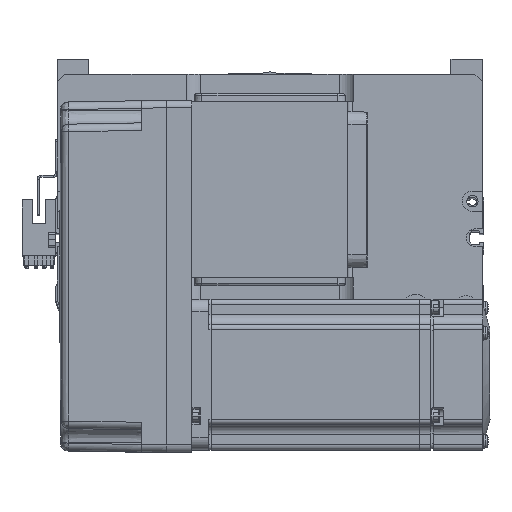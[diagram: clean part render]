
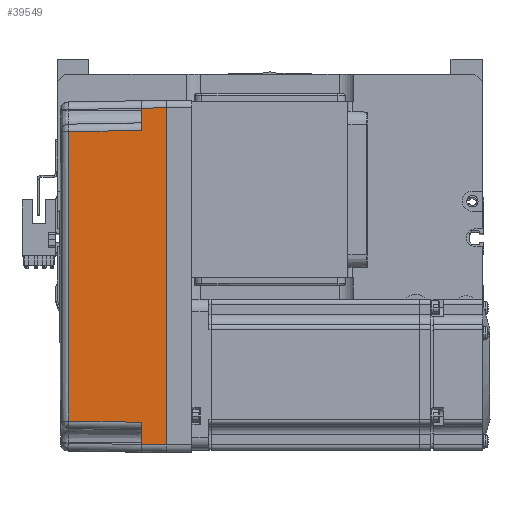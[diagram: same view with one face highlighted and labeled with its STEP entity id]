
A CAD part, top view. The second image highlights one B-rep face of the part: STEP entity #39549.
In plain terms, the highlighted planar face has unit normal (-0.018, 0, 1) as drawn and (0, -1, 0.017) by its records, which use the part's own axes.
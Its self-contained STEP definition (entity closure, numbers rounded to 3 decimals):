
#1878 = B_SPLINE_CURVE_WITH_KNOTS ( 'NONE', 3,
 ( #19127, #33254, #19323, #51954 ),
 .UNSPECIFIED., .F., .F.,
 ( 4, 4 ),
 ( 0., 1. ),
 .UNSPECIFIED. ) ;
#2614 = DIRECTION ( 'NONE',  ( 0., -1., 0.017 ) ) ;
#2633 = ORIENTED_EDGE ( 'NONE', *, *, #57067, .T. ) ;
#3504 = EDGE_CURVE ( 'NONE', #26975, #42988, #1878, .T. ) ;
#4125 = EDGE_CURVE ( 'NONE', #31182, #32437, #5327, .T. ) ;
#4708 = CARTESIAN_POINT ( 'NONE',  ( 67., -36., 0. ) ) ;
#4940 = DIRECTION ( 'NONE',  ( -1., 0., 0. ) ) ;
#5059 = CARTESIAN_POINT ( 'NONE',  ( -57.495, -35.32, 38.985 ) ) ;
#5154 = VECTOR ( 'NONE', #24069, 1000. ) ;
#5327 = LINE ( 'NONE', #34614, #53708 ) ;
#5717 = VERTEX_POINT ( 'NONE', #32763 ) ;
#6558 = DIRECTION ( 'NONE',  ( -1., 0., 0. ) ) ;
#8178 = LINE ( 'NONE', #10608, #57283 ) ;
#9000 = EDGE_CURVE ( 'NONE', #53664, #32437, #24582, .T. ) ;
#10225 = CARTESIAN_POINT ( 'NONE',  ( 0., -36., 0. ) ) ;
#10608 = CARTESIAN_POINT ( 'NONE',  ( 67., -36., 0. ) ) ;
#11576 = CARTESIAN_POINT ( 'NONE',  ( 70., -35.825, 10. ) ) ;
#12380 = DIRECTION ( 'NONE',  ( -1., 0., 0. ) ) ;
#13170 = EDGE_LOOP ( 'NONE', ( #53046, #2633, #42781, #21612, #13357, #23044, #35906, #52726 ) ) ;
#13357 = ORIENTED_EDGE ( 'NONE', *, *, #21970, .T. ) ;
#13974 = VECTOR ( 'NONE', #12380, 1000. ) ;
#15080 = CARTESIAN_POINT ( 'NONE',  ( 58., -35.825, 10. ) ) ;
#16965 = DIRECTION ( 'NONE',  ( 0., -0.017, -1. ) ) ;
#19127 = CARTESIAN_POINT ( 'NONE',  ( 57.495, -35.32, 38.985 ) ) ;
#19323 = CARTESIAN_POINT ( 'NONE',  ( -19.165, -35.316, 39.181 ) ) ;
#20532 = VERTEX_POINT ( 'NONE', #15080 ) ;
#21612 = ORIENTED_EDGE ( 'NONE', *, *, #3504, .T. ) ;
#21860 = CARTESIAN_POINT ( 'NONE',  ( 58., -35.825, 10. ) ) ;
#21970 = EDGE_CURVE ( 'NONE', #42988, #31182, #60091, .T. ) ;
#23044 = ORIENTED_EDGE ( 'NONE', *, *, #4125, .T. ) ;
#23897 = CARTESIAN_POINT ( 'NONE',  ( -66.959, -35.958, 2.39 ) ) ;
#24069 = DIRECTION ( 'NONE',  ( -0.017, -0.017, -1. ) ) ;
#24582 = LINE ( 'NONE', #23897, #58996 ) ;
#25772 = EDGE_CURVE ( 'NONE', #60689, #5717, #8178, .T. ) ;
#26163 = CARTESIAN_POINT ( 'NONE',  ( 70., -36., 0. ) ) ;
#26975 = VERTEX_POINT ( 'NONE', #37983 ) ;
#31182 = VERTEX_POINT ( 'NONE', #54448 ) ;
#31678 = DIRECTION ( 'NONE',  ( -0.017, 0.017, 1. ) ) ;
#32437 = VERTEX_POINT ( 'NONE', #48048 ) ;
#32763 = CARTESIAN_POINT ( 'NONE',  ( 66.826, -35.825, 10. ) ) ;
#33254 = CARTESIAN_POINT ( 'NONE',  ( 19.165, -35.316, 39.181 ) ) ;
#34008 = FACE_OUTER_BOUND ( 'NONE', #13170, .T. ) ;
#34614 = CARTESIAN_POINT ( 'NONE',  ( 70., -35.825, 10. ) ) ;
#35906 = ORIENTED_EDGE ( 'NONE', *, *, #9000, .F. ) ;
#36504 = EDGE_CURVE ( 'NONE', #60689, #53664, #60646, .T. ) ;
#37883 = VECTOR ( 'NONE', #4940, 1000. ) ;
#37983 = CARTESIAN_POINT ( 'NONE',  ( 57.495, -35.32, 38.985 ) ) ;
#38422 = DIRECTION ( 'NONE',  ( 0.017, 0.017, 1. ) ) ;
#38434 = CARTESIAN_POINT ( 'NONE',  ( -57.495, -35.32, 38.985 ) ) ;
#39549 = ADVANCED_FACE ( 'NONE', ( #34008 ), #58504, .T. ) ;
#40409 = EDGE_CURVE ( 'NONE', #20532, #26975, #53833, .T. ) ;
#41386 = VECTOR ( 'NONE', #31678, 1000. ) ;
#41844 = LINE ( 'NONE', #11576, #13974 ) ;
#42781 = ORIENTED_EDGE ( 'NONE', *, *, #40409, .T. ) ;
#42988 = VERTEX_POINT ( 'NONE', #38434 ) ;
#42996 = DIRECTION ( 'NONE',  ( -0.017, 0.017, 1. ) ) ;
#47169 = AXIS2_PLACEMENT_3D ( 'NONE', #26163, #2614, #16965 ) ;
#48048 = CARTESIAN_POINT ( 'NONE',  ( -66.826, -35.825, 10. ) ) ;
#51954 = CARTESIAN_POINT ( 'NONE',  ( -57.495, -35.32, 38.985 ) ) ;
#52726 = ORIENTED_EDGE ( 'NONE', *, *, #36504, .F. ) ;
#53046 = ORIENTED_EDGE ( 'NONE', *, *, #25772, .T. ) ;
#53664 = VERTEX_POINT ( 'NONE', #56656 ) ;
#53708 = VECTOR ( 'NONE', #6558, 1000. ) ;
#53833 = LINE ( 'NONE', #21860, #41386 ) ;
#54448 = CARTESIAN_POINT ( 'NONE',  ( -58., -35.825, 10. ) ) ;
#56656 = CARTESIAN_POINT ( 'NONE',  ( -67., -36., 0. ) ) ;
#57067 = EDGE_CURVE ( 'NONE', #5717, #20532, #41844, .T. ) ;
#57283 = VECTOR ( 'NONE', #42996, 1000. ) ;
#58504 = PLANE ( 'NONE',  #47169 ) ;
#58996 = VECTOR ( 'NONE', #38422, 1000. ) ;
#60091 = LINE ( 'NONE', #5059, #5154 ) ;
#60646 = LINE ( 'NONE', #10225, #37883 ) ;
#60689 = VERTEX_POINT ( 'NONE', #4708 ) ;
